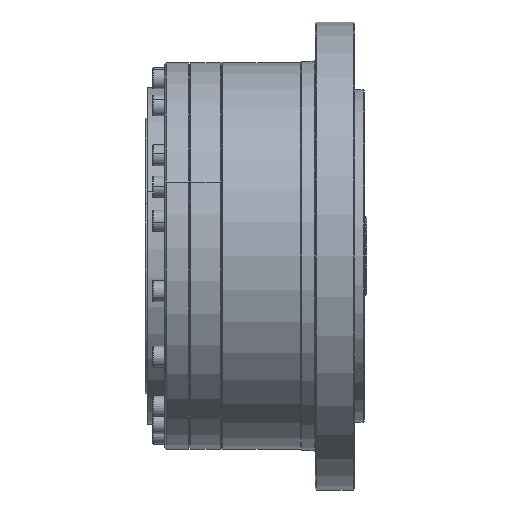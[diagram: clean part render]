
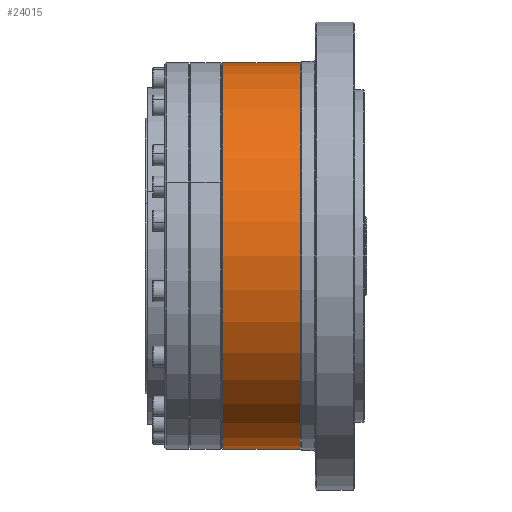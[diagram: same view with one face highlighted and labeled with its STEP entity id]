
A CAD part, front view. The second image highlights one B-rep face of the part: STEP entity #24015.
In plain terms, the highlighted cylindrical face has radius 78.5 mm (diameter 157 mm), a partial arc.
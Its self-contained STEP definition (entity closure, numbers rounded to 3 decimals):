
#2242 = DIRECTION ( 'NONE',  ( -1., 0., 0. ) ) ;
#2256 = DIRECTION ( 'NONE',  ( 0., 0., 1. ) ) ;
#3940 = DIRECTION ( 'NONE',  ( -1., 0., 0. ) ) ;
#4320 = CARTESIAN_POINT ( 'NONE',  ( -46.55, 0., 78.5 ) ) ;
#5665 = AXIS2_PLACEMENT_3D ( 'NONE', #32990, #9252, #36976 ) ;
#6147 = VERTEX_POINT ( 'NONE', #16696 ) ;
#6973 = EDGE_LOOP ( 'NONE', ( #9543, #31465, #18829, #7668 ) ) ;
#7668 = ORIENTED_EDGE ( 'NONE', *, *, #40258, .T. ) ;
#7933 = AXIS2_PLACEMENT_3D ( 'NONE', #25974, #2242, #29943 ) ;
#9252 = DIRECTION ( 'NONE',  ( 1., 0., 0. ) ) ;
#9317 = EDGE_CURVE ( 'NONE', #29829, #28706, #14645, .T. ) ;
#9543 = ORIENTED_EDGE ( 'NONE', *, *, #13518, .F. ) ;
#12871 = AXIS2_PLACEMENT_3D ( 'NONE', #41935, #26152, #2256 ) ;
#13260 = LINE ( 'NONE', #15912, #14517 ) ;
#13390 = VECTOR ( 'NONE', #24021, 1000. ) ;
#13518 = EDGE_CURVE ( 'NONE', #6147, #17347, #13260, .T. ) ;
#14517 = VECTOR ( 'NONE', #3940, 1000. ) ;
#14645 = LINE ( 'NONE', #32994, #13390 ) ;
#15912 = CARTESIAN_POINT ( 'NONE',  ( 5.969, 0., -78.5 ) ) ;
#16589 = FACE_OUTER_BOUND ( 'NONE', #6973, .T. ) ;
#16696 = CARTESIAN_POINT ( 'NONE',  ( -15.05, 0., -78.5 ) ) ;
#17347 = VERTEX_POINT ( 'NONE', #21239 ) ;
#18829 = ORIENTED_EDGE ( 'NONE', *, *, #9317, .T. ) ;
#19577 = EDGE_CURVE ( 'NONE', #6147, #29829, #47516, .T. ) ;
#21239 = CARTESIAN_POINT ( 'NONE',  ( -46.55, 0., -78.5 ) ) ;
#22707 = CARTESIAN_POINT ( 'NONE',  ( -15.05, 0., 78.5 ) ) ;
#24015 = ADVANCED_FACE ( 'NONE', ( #16589 ), #46985, .T. ) ;
#24021 = DIRECTION ( 'NONE',  ( -1., 0., 0. ) ) ;
#25974 = CARTESIAN_POINT ( 'NONE',  ( -15.05, 0., 0. ) ) ;
#26152 = DIRECTION ( 'NONE',  ( -1., 0., 0. ) ) ;
#28706 = VERTEX_POINT ( 'NONE', #4320 ) ;
#29829 = VERTEX_POINT ( 'NONE', #22707 ) ;
#29943 = DIRECTION ( 'NONE',  ( 0., 0., 1. ) ) ;
#31465 = ORIENTED_EDGE ( 'NONE', *, *, #19577, .T. ) ;
#32990 = CARTESIAN_POINT ( 'NONE',  ( -46.55, 0., 0. ) ) ;
#32994 = CARTESIAN_POINT ( 'NONE',  ( 5.969, 0., 78.5 ) ) ;
#36976 = DIRECTION ( 'NONE',  ( 0., 0., -1. ) ) ;
#40258 = EDGE_CURVE ( 'NONE', #28706, #17347, #42821, .T. ) ;
#41935 = CARTESIAN_POINT ( 'NONE',  ( 5.969, 0., 0. ) ) ;
#42821 = CIRCLE ( 'NONE', #5665, 78.5 ) ;
#46985 = CYLINDRICAL_SURFACE ( 'NONE', #12871, 78.5 ) ;
#47516 = CIRCLE ( 'NONE', #7933, 78.5 ) ;
